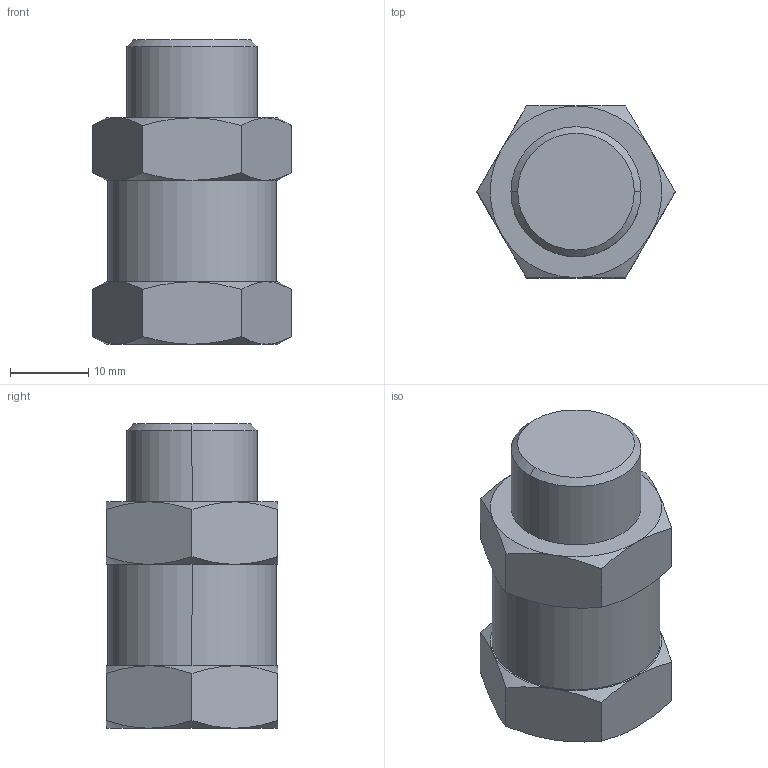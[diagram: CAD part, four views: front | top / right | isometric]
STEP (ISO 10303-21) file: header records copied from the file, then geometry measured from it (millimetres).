
FILE_DESCRIPTION (( 'STEP AP214' ), '1' );
FILE_NAME ('VSVKG-G38M.STEP', '2023-01-26T16:44:31', ( '' ), ( '' ), 'SwSTEP 2.0', 'SolidWorks 2018', '' );
FILE_SCHEMA (( 'AUTOMOTIVE_DESIGN' ));
Length unit declared in the file: millimetre
Products named in the file (1): VSVKG-G38M
Bounding box: 25.4 x 22 x 39 mm (x, y, z)
Volume: 11211.1 mm3; surface area: 4031 mm2
Topology: 1 solids, 1 shells, 54 faces, 116 edges, 67 vertices
Faces by surface type: cone 30, plane 18, cylinder 6
Entity records: 1487 total; most frequent: CARTESIAN_POINT 332, ORIENTED_EDGE 228, DIRECTION 218, EDGE_CURVE 114, AXIS2_PLACEMENT_3D 97, VERTEX_POINT 67, EDGE_LOOP 59, FACE_OUTER_BOUND 54
